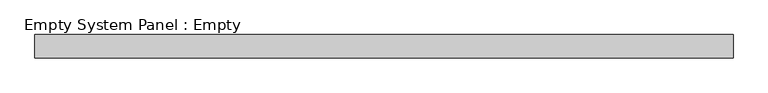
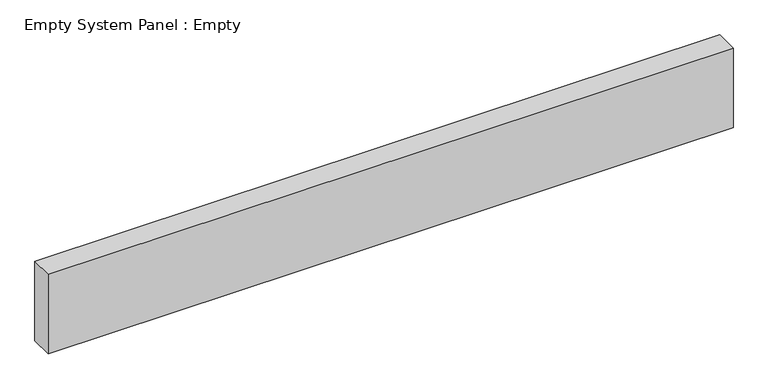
"""IFC4 building model written with IfcOpenShell, lengths in millimetres: plate geometry, Empty System Panel : Empty."""

import ifcopenshell
import ifcopenshell.guid

model = None  # the IFC model being written
_history = None  # IfcOwnerHistory: only IFC2X3 demands one
_inside = {}  # id of a spatial element -> (the spatial element, [elements in it])
_under = {}  # id of a project, library or spatial element -> (it, [spatial elements below it])
_declared = {}  # id of a project -> (the project, [libraries it declares])
_typed = {}  # id of a type object -> (the type object, [elements of that type])
_made_of = {}  # id of a material, layer set ... -> (it, [elements and type objects made of it])


def new_model(schema):
    """Start an empty IFC model of exactly this schema.

    Asked for "IFC4X3", IfcOpenShell would pick the latest addendum, in which some entities
    have other attributes; the version numbers below select the first issue.
    IFC2X3 requires an IfcOwnerHistory on every rooted entity: one is made here for all.
    """
    global model, _history
    if schema == "IFC4X3":
        model = ifcopenshell.file(schema_version=(4, 3, 0, 0))
    else:
        model = ifcopenshell.file(schema=schema)
    _inside.clear()
    _under.clear()
    _declared.clear()
    _typed.clear()
    _made_of.clear()
    _history = None
    if model.schema == "IFC2X3":
        org = make("IfcOrganization", Name="unknown")
        user = make(
            "IfcPersonAndOrganization",
            ThePerson=make("IfcPerson", FamilyName="unknown"),
            TheOrganization=org,
        )
        app = make(
            "IfcApplication",
            ApplicationDeveloper=org,
            Version="unknown",
            ApplicationFullName="unknown",
            ApplicationIdentifier="unknown",
        )
        _history = make(
            "IfcOwnerHistory",
            OwningUser=user,
            OwningApplication=app,
            ChangeAction="ADDED",
            CreationDate=0,
        )
    return model


def make(cls, **values):
    """One entity of the class cls with the attributes given. An attribute that is None is left unset."""
    return model.create_entity(
        cls, **{name: value for name, value in values.items() if value is not None}
    )


def rooted(cls, **values):
    """An entity with a GlobalId (a new one), such as an element, a storey or a relation."""
    return make(cls, GlobalId=ifcopenshell.guid.new(), OwnerHistory=_history, **values)


def si_unit(unit_type, name, prefix=None):
    """IfcSIUnit, for example si_unit("LENGTHUNIT", "METRE", prefix="MILLI")."""
    return make("IfcSIUnit", UnitType=unit_type, Prefix=prefix, Name=name)


def assignment(units):
    """IfcUnitAssignment: the units of a project."""
    return None if units is None else make("IfcUnitAssignment", Units=units)


def point(xyz):
    """IfcCartesianPoint."""
    return None if xyz is None else make("IfcCartesianPoint", Coordinates=xyz)


def direction(xyz):
    """IfcDirection."""
    return None if xyz is None else make("IfcDirection", DirectionRatios=xyz)


def frame(location, z_axis=None, x_axis=None):
    """IfcAxis2Placement3D, a coordinate frame: its origin and axes. An axis left out is left unset."""
    return make(
        "IfcAxis2Placement3D",
        Location=point(location),
        Axis=direction(z_axis),
        RefDirection=direction(x_axis),
    )


def origin():
    """The frame at (0, 0, 0) with its axes left unset."""
    return frame((0.0, 0.0, 0.0))


def origin_with_axes():
    """The frame at (0, 0, 0) with the z axis (0, 0, 1) and the x axis (1, 0, 0) written out."""
    return frame((0.0, 0.0, 0.0), z_axis=(0.0, 0.0, 1.0), x_axis=(1.0, 0.0, 0.0))


def place(relative_to, where):
    """IfcLocalPlacement: puts the frame where relative to a parent placement (None: the world)."""
    return make(
        "IfcLocalPlacement", PlacementRelTo=relative_to, RelativePlacement=where
    )


def context(
    kind, dimensions, precision=None, world=None, true_north=None, identifier=None
):
    """IfcGeometricRepresentationContext, for example the 3D "Model" context."""
    return make(
        "IfcGeometricRepresentationContext",
        ContextIdentifier=identifier,
        ContextType=kind,
        CoordinateSpaceDimension=dimensions,
        Precision=precision,
        WorldCoordinateSystem=world,
        TrueNorth=true_north,
    )


def project(units=None, contexts=None):
    """IfcProject with its units and contexts."""
    return rooted(
        "IfcProject",
        Name="project",
        RepresentationContexts=contexts,
        UnitsInContext=assignment(units),
    )


def spatial(cls, under=None, at=None, **own):
    """A site, building, storey or space (cls), placed at a placement, below another one or the project."""
    s = rooted(cls, ObjectPlacement=at, **own)
    if under is not None:
        _under.setdefault(under.id(), (under, []))[1].append(s)
    return s


def polyline(points):
    """IfcPolyline through the points."""
    return make("IfcPolyline", Points=[point(p) for p in points])


def outline(outer, holes=None, kind="AREA"):
    """IfcArbitraryClosedProfileDef: a profile drawn as a closed curve; with holes, ...WithVoids."""
    if holes is None:
        return make("IfcArbitraryClosedProfileDef", ProfileType=kind, OuterCurve=outer)
    return make(
        "IfcArbitraryProfileDefWithVoids",
        ProfileType=kind,
        OuterCurve=outer,
        InnerCurves=holes,
    )


def extrude(swept, where, along, depth):
    """IfcExtrudedAreaSolid: the profile swept, set in the frame where, extruded along a direction by depth."""
    return make(
        "IfcExtrudedAreaSolid",
        SweptArea=swept,
        Position=where,
        ExtrudedDirection=direction(along),
        Depth=depth,
    )


def shape(context_of_items, identifier, shape_type, items):
    """IfcShapeRepresentation: the items that make up one representation, for example the "Body"."""
    return make(
        "IfcShapeRepresentation",
        ContextOfItems=context_of_items,
        RepresentationIdentifier=identifier,
        RepresentationType=shape_type,
        Items=items,
    )


def source(mapping_origin, context_of_items, identifier, shape_type, items):
    """IfcRepresentationMap: a shape defined once, which mapped items show again and again."""
    return make(
        "IfcRepresentationMap",
        MappingOrigin=mapping_origin,
        MappedRepresentation=shape(context_of_items, identifier, shape_type, items),
    )


def transform(
    local_origin,
    x_axis=None,
    y_axis=None,
    z_axis=None,
    scale=None,
    scale2=None,
    scale3=None,
    uniform=True,
):
    """IfcCartesianTransformationOperator3D, or its non-uniform kind. x_axis, y_axis, z_axis: its Axis1, 2, 3."""
    if uniform:
        return make(
            "IfcCartesianTransformationOperator3D",
            Axis1=direction(x_axis),
            Axis2=direction(y_axis),
            LocalOrigin=point(local_origin),
            Scale=scale,
            Axis3=direction(z_axis),
        )
    return make(
        "IfcCartesianTransformationOperator3DnonUniform",
        Axis1=direction(x_axis),
        Axis2=direction(y_axis),
        LocalOrigin=point(local_origin),
        Scale=scale,
        Axis3=direction(z_axis),
        Scale2=scale2,
        Scale3=scale3,
    )


def mapped(mapping_source, mapping_target):
    """IfcMappedItem: shows the shape of a source again, moved by a transform."""
    return make(
        "IfcMappedItem", MappingSource=mapping_source, MappingTarget=mapping_target
    )


def made_of(thing, what):
    """Note that an element or type object is made of a material, layer set ...; save() writes the relation."""
    if what is not None:
        _made_of.setdefault(what.id(), (what, []))[1].append(thing)
    return thing


def element(
    cls,
    number,
    at=None,
    inside=None,
    cuts=None,
    type_object=None,
    material=None,
    context=None,
    identifier="Body",
    shape_type=None,
    held_by="IfcProductDefinitionShape",
    body=None,
    shapes=None,
    **own,
):
    """One element of the class cls, such as IfcWall. Its Tag is "e" and its number.

    at: its placement. inside: the storey or other place that contains it. cuts: it is an
    opening in that element (IfcRelVoidsElement). A single representation is given by context,
    identifier, shape_type and body (its items); several are given by shapes. held_by: the class
    of the entity that holds the representations. save() writes the other relations.
    """
    e = rooted(cls, Tag="e%d" % number, ObjectPlacement=at, **own)
    if body is not None:
        shapes = [shape(context, identifier, shape_type, body)]
    if shapes is not None:
        e.Representation = make(held_by, Representations=shapes)
    if inside is not None:
        _inside.setdefault(inside.id(), (inside, []))[1].append(e)
    if cuts is not None:
        rooted(
            "IfcRelVoidsElement", RelatingBuildingElement=cuts, RelatedOpeningElement=e
        )
    if type_object is not None:
        _typed.setdefault(type_object.id(), (type_object, []))[1].append(e)
    return made_of(e, material)


def aggregate(whole, parts):
    """IfcRelAggregates: a whole, such as a stair, and the parts it consists of."""
    return rooted("IfcRelAggregates", RelatingObject=whole, RelatedObjects=parts)


def save(model, path):
    """Write the relations noted so far, then the file.

    IfcRelAggregates (storeys below a building ...), IfcRelContainedInSpatialStructure (elements
    in a storey), IfcRelDefinesByType, IfcRelAssociatesMaterial and IfcRelDeclares: one each for
    every whole, place, type object, material and project.
    """
    for whole, parts in _under.values():
        aggregate(whole, parts)
    for where, things in _inside.values():
        rooted(
            "IfcRelContainedInSpatialStructure",
            RelatedElements=things,
            RelatingStructure=where,
        )
    for kind, things in _typed.values():
        rooted("IfcRelDefinesByType", RelatedObjects=things, RelatingType=kind)
    for what, things in _made_of.values():
        rooted("IfcRelAssociatesMaterial", RelatedObjects=things, RelatingMaterial=what)
    for by, libraries in _declared.values():
        rooted("IfcRelDeclares", RelatingContext=by, RelatedDefinitions=libraries)
    model.write(path)


def empty_system_panel_empty_1007a1ca(model_context):
    return source(origin(), model_context, "Body", "SweptSolid", [
        extrude(outline(polyline([(1500.0, -50.0), (-1500.0, -50.0), (-1500.0, 50.0), (1500.0, 50.0), (1500.0, -50.0)])), origin_with_axes(), (0.0, 0.0, 1.0), 368.5),
    ])


if __name__ == "__main__":
    model = new_model("IFC4")
    model_context = context("Model", 3, world=origin())
    ifc_project = project(units=[si_unit("LENGTHUNIT", "METRE", prefix="MILLI")], contexts=[model_context])
    site = spatial("IfcSite", under=ifc_project)
    building = spatial("IfcBuilding", under=site)
    placement = place(None, origin())
    empty_system_panel_empty_shape = empty_system_panel_empty_1007a1ca(model_context)
    element("IfcPlate", 1, ObjectType="Empty System Panel : Empty", at=placement, inside=building, context=model_context, shape_type="MappedRepresentation", body=[
        mapped(empty_system_panel_empty_shape, transform((0.0, 0.0, 0.0), x_axis=(1.0, 0.0, 0.0), y_axis=(0.0, 1.0, 0.0), z_axis=(0.0, 0.0, 1.0))),
    ])
    save(model, "model.ifc")
